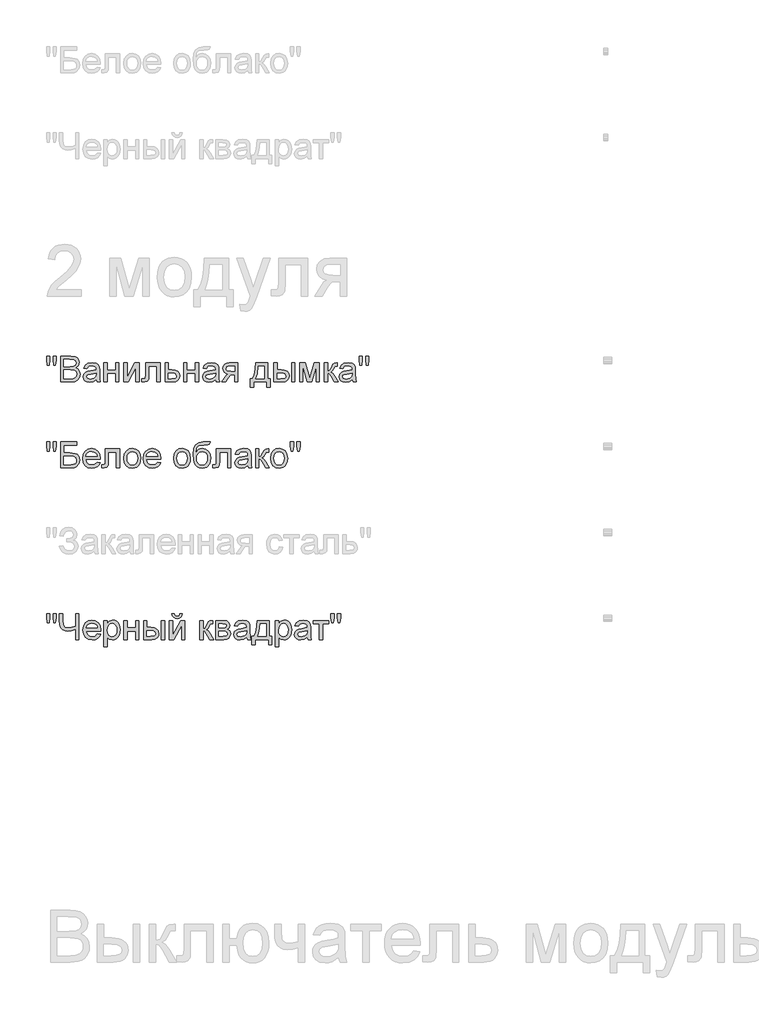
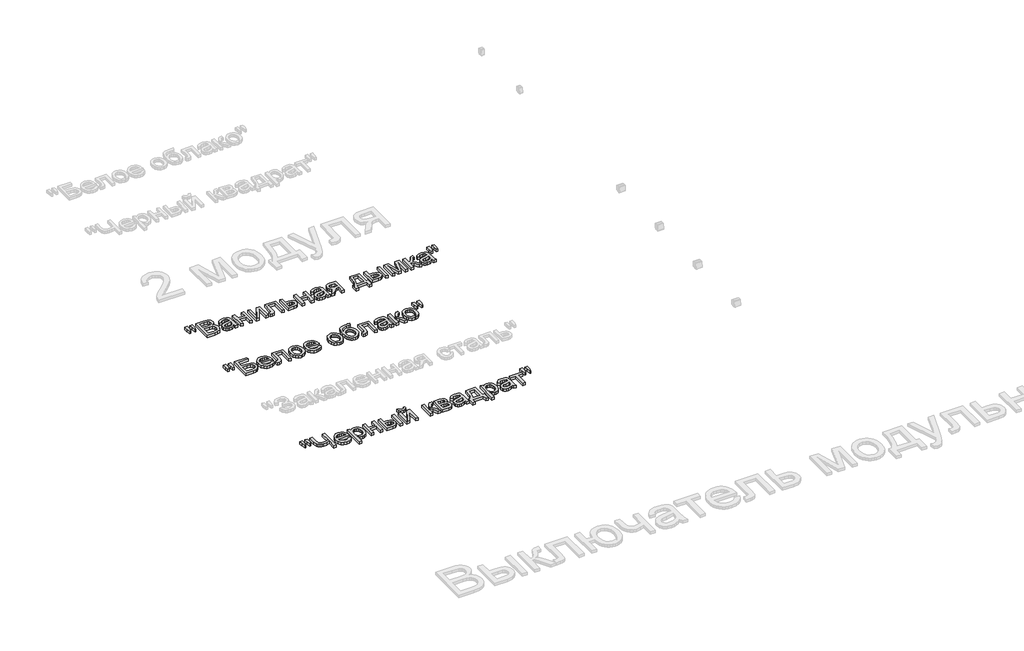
# One storey, part 40 of 168: 3 proxies.
"""IFC4 building model written with IfcOpenShell, lengths in millimetres."""

from ifc_helpers import new_model, si_unit, origin, origin_with_axes, place, context, project, spatial, polyline, outline, extrude, element, save

model = new_model("IFC4")

# Units and contexts
model_context = context("Model", 3, world=origin())
ifc_project = project(units=[si_unit("LENGTHUNIT", "METRE", prefix="MILLI")], contexts=[model_context])

# Site, building, storey
site = spatial("IfcSite", under=ifc_project)
building = spatial("IfcBuilding", under=site)
storey = spatial("IfcBuildingStorey", under=building, Name="Этаж 01", Elevation=0.0)

# Proxies
placement = place(None, origin())
element("IfcBuildingElementProxy", 1, Name="150", ObjectType="150", at=placement, inside=storey, context=model_context, shape_type="SweptSolid", body=[
    extrude(outline(polyline([(41980.1485789, -42186.1059817), (41975.550054, -42157.0065159), (41975.550054, -42131.9537521), (41994.3856121, -42131.9537521), (41994.3856121, -42157.0065159), (41990.2653338, -42186.1059817), (41980.1485789, -42186.1059817)])), origin_with_axes(), (0.0, 0.0, 1.0), 20.0),
    extrude(outline(polyline([(42017.7093306, -42186.1059817), (42013.2211703, -42157.0065159), (42013.2211703, -42131.9537521), (42032.0567284, -42131.9537521), (42032.0567284, -42157.0065159), (42027.6421445, -42186.1059817), (42017.7093306, -42186.1059817)])), origin_with_axes(), (0.0, 0.0, 1.0), 20.0),
    extrude(outline(polyline([(42057.9556209, -42282.6382173), (42057.9556209, -42131.9537521), (42115.4555767, -42131.9537521), (42143.6169435, -42136.3867301), (42153.0807078, -42142.0107261), (42160.2452096, -42150.016758), (42166.2600803, -42169.2937746), (42161.2017028, -42186.896928), (42145.9162059, -42200.2326504), (42156.5893823, -42205.8060626), (42164.4758526, -42214.2857426), (42169.3456905, -42225.1106703), (42170.9689698, -42237.7198257), (42166.5359918, -42257.9717295), (42155.5547142, -42272.3927037), (42139.1655713, -42280.0446492), (42115.0141183, -42282.6382173), (42057.9556209, -42282.6382173)]), holes=[polyline([(42076.791179, -42193.1693161), (42111.1881456, -42193.1693161), (42131.2745025, -42191.5506353), (42143.3594261, -42184.5792715), (42147.4245221, -42172.3104069), (42143.6353376, -42160.0231483), (42132.7828187, -42152.7574789), (42108.5761834, -42150.7893102), (42076.791179, -42150.7893102), (42076.791179, -42193.1693161)]), polyline([(42076.791179, -42263.8026591), (42115.4187885, -42263.8026591), (42129.3983043, -42263.0668951), (42141.2257105, -42258.9650109), (42149.061597, -42250.5956955), (42152.1334117, -42237.9037667), (42148.5281681, -42223.2620633), (42136.8479148, -42214.5248659), (42113.5793786, -42212.0048742), (42076.791179, -42212.0048742), (42076.791179, -42263.8026591)])]), origin_with_axes(), (0.0, 0.0, 1.0), 20.0),
    extrude(outline(polyline([(42265.1467606, -42268.5115487), (42246.8814195, -42281.2770539), (42226.7030921, -42284.992662), (42210.9623412, -42282.7577789), (42199.3510657, -42276.0531296), (42192.1911624, -42265.8719954), (42189.804528, -42253.2076577), (42193.4097715, -42238.3084369), (42202.8827329, -42227.4927062), (42216.0713024, -42221.3122887), (42232.3684748, -42218.4795973), (42265.036396, -42212.0048742), (42265.1467606, -42207.8110195), (42263.8499765, -42199.4049159), (42259.9596244, -42193.90508), (42251.2592153, -42189.8215899), (42239.1375035, -42188.4604265), (42220.0812162, -42192.0840642), (42210.9945309, -42204.9415399), (42192.1589727, -42202.5870951), (42200.3075589, -42184.1929954), (42216.7150959, -42173.4140529), (42241.5655247, -42169.6248684), (42264.3926025, -42172.9725945), (42277.2868664, -42181.3786981), (42283.0626137, -42194.1625974), (42283.9823187, -42210.6437108), (42283.9823187, -42234.0777939), (42284.9388119, -42266.8008974), (42288.6912083, -42282.6382173), (42269.8556501, -42282.6382173), (42265.1467606, -42268.5115487)]), holes=[polyline([(42265.1467606, -42230.8404324), (42234.7597078, -42236.6161797), (42218.5545059, -42239.6696002), (42211.2152601, -42244.6360072), (42208.6400861, -42251.8832825), (42214.2502865, -42262.0736138), (42230.7130058, -42266.1571039), (42249.7692932, -42261.6505495), (42262.0565518, -42250.7428483), (42265.036396, -42236.1747213), (42265.1467606, -42230.8404324)])]), origin_with_axes(), (0.0, 0.0, 1.0), 20.0),
    extrude(outline(polyline([(42309.8812112, -42171.9793131), (42328.7167693, -42171.9793131), (42328.7167693, -42214.359319), (42378.1601095, -42214.359319), (42378.1601095, -42171.9793131), (42396.9956676, -42171.9793131), (42396.9956676, -42282.6382173), (42378.1601095, -42282.6382173), (42378.1601095, -42233.1948771), (42328.7167693, -42233.1948771), (42328.7167693, -42282.6382173), (42309.8812112, -42282.6382173), (42309.8812112, -42171.9793131)])), origin_with_axes(), (0.0, 0.0, 1.0), 20.0),
    extrude(outline(polyline([(42425.2490049, -42171.9793131), (42444.084563, -42171.9793131), (42444.084563, -42256.3714428), (42490.364118, -42171.9793131), (42514.7179061, -42171.9793131), (42514.7179061, -42282.6382173), (42495.8823479, -42282.6382173), (42495.8823479, -42198.7611224), (42449.8970985, -42282.6382173), (42425.2490049, -42282.6382173), (42425.2490049, -42171.9793131)])), origin_with_axes(), (0.0, 0.0, 1.0), 20.0),
    extrude(outline(polyline([(42552.3890224, -42171.9793131), (42637.1490341, -42171.9793131), (42637.1490341, -42282.5278527), (42618.3134759, -42282.5278527), (42618.3134759, -42190.8148713), (42571.2245806, -42190.8148713), (42571.2245806, -42243.6059376), (42569.9553877, -42267.9597257), (42562.9840239, -42278.2420274), (42546.5029105, -42282.6382173), (42531.1990195, -42281.6817241), (42531.1990195, -42263.8026591), (42539.6235172, -42263.8026591), (42548.1399854, -42262.6438308), (42551.5428938, -42258.9650109), (42552.3890224, -42242.5390798), (42552.3890224, -42171.9793131)])), origin_with_axes(), (0.0, 0.0, 1.0), 20.0),
    extrude(outline(polyline([(42665.4023713, -42171.9793131), (42684.2379295, -42171.9793131), (42684.2379295, -42212.0048742), (42705.9429672, -42212.0048742), (42724.7601312, -42214.3639175), (42738.6844648, -42221.4410474), (42747.2929034, -42232.6660468), (42750.162383, -42247.4686985), (42747.7205663, -42260.9469751), (42740.395116, -42272.3191273), (42727.6985887, -42280.0584448), (42709.1435405, -42282.6382173), (42665.4023713, -42282.6382173), (42665.4023713, -42171.9793131)]), holes=[polyline([(42684.2379295, -42263.8026591), (42701.8226888, -42263.8026591), (42724.539402, -42259.8479277), (42729.6299692, -42254.7849517), (42731.3268249, -42247.5054867), (42726.3052356, -42235.9172039), (42718.2348244, -42232.1096252), (42704.066769, -42230.8404324), (42684.2379295, -42230.8404324), (42684.2379295, -42263.8026591)])]), origin_with_axes(), (0.0, 0.0, 1.0), 20.0),
    extrude(outline(polyline([(42773.7068307, -42171.9793131), (42792.5423889, -42171.9793131), (42792.5423889, -42214.359319), (42841.985729, -42214.359319), (42841.985729, -42171.9793131), (42860.8212872, -42171.9793131), (42860.8212872, -42282.6382173), (42841.985729, -42282.6382173), (42841.985729, -42233.1948771), (42792.5423889, -42233.1948771), (42792.5423889, -42282.6382173), (42773.7068307, -42282.6382173), (42773.7068307, -42171.9793131)])), origin_with_axes(), (0.0, 0.0, 1.0), 20.0),
    extrude(outline(polyline([(42959.7079675, -42268.5115487), (42941.4426264, -42281.2770539), (42921.264299, -42284.992662), (42905.5235481, -42282.7577789), (42893.9122726, -42276.0531296), (42886.7523693, -42265.8719954), (42884.3657349, -42253.2076577), (42887.9709784, -42238.3084369), (42897.4439398, -42227.4927062), (42910.6325093, -42221.3122887), (42926.9296817, -42218.4795973), (42959.5976029, -42212.0048742), (42959.7079675, -42207.8110195), (42958.4111834, -42199.4049159), (42954.5208313, -42193.90508), (42945.8204221, -42189.8215899), (42933.6987104, -42188.4604265), (42914.6424231, -42192.0840642), (42905.5557378, -42204.9415399), (42886.7201796, -42202.5870951), (42894.8687658, -42184.1929954), (42911.2763028, -42173.4140529), (42936.1267316, -42169.6248684), (42958.9538094, -42172.9725945), (42971.8480733, -42181.3786981), (42977.6238206, -42194.1625974), (42978.5435256, -42210.6437108), (42978.5435256, -42234.0777939), (42979.5000188, -42266.8008974), (42983.2524152, -42282.6382173), (42964.416857, -42282.6382173), (42959.7079675, -42268.5115487)]), holes=[polyline([(42959.7079675, -42230.8404324), (42929.3209147, -42236.6161797), (42913.1157128, -42239.6696002), (42905.776467, -42244.6360072), (42903.201293, -42251.8832825), (42908.8114934, -42262.0736138), (42925.2742127, -42266.1571039), (42944.3305001, -42261.6505495), (42956.6177587, -42250.7428483), (42959.5976029, -42236.1747213), (42959.7079675, -42230.8404324)])]), origin_with_axes(), (0.0, 0.0, 1.0), 20.0),
    extrude(outline(polyline([(43089.2024298, -42171.9793131), (43089.2024298, -42282.6382173), (43070.3668716, -42282.6382173), (43070.3668716, -42240.2582114), (43060.1029639, -42240.2582114), (43046.1234481, -42242.6494444), (43032.9900609, -42258.7258876), (43017.9804755, -42282.6382173), (42996.2018614, -42282.6382173), (43015.1109959, -42252.3983173), (43023.4619172, -42241.5457984), (43031.1506509, -42236.7265443), (43018.2747811, -42232.7810099), (43009.224884, -42225.2854142), (43003.872201, -42215.3158122), (43002.0879733, -42203.9482585), (43004.5251915, -42191.0539946), (43011.8368462, -42180.8452692), (43023.7654199, -42174.1958022), (43040.0533952, -42171.9793131), (43089.2024298, -42171.9793131)]), holes=[polyline([(43070.3668716, -42190.8148713), (43045.5348369, -42190.8148713), (43032.7095509, -42191.9047217), (43025.4300859, -42195.1742729), (43020.9235315, -42205.3829983), (43022.583599, -42212.5612957), (43027.5638015, -42217.5414982), (43051.0898551, -42221.4226533), (43070.3668716, -42221.4226533), (43070.3668716, -42190.8148713)])]), origin_with_axes(), (0.0, 0.0, 1.0), 20.0),
    extrude(outline(polyline([(43192.7979996, -42171.9793131), (43263.4313427, -42171.9793131), (43263.4313427, -42263.8026591), (43277.5580113, -42263.8026591), (43277.5580113, -42313.2459993), (43258.7224531, -42313.2459993), (43258.7224531, -42282.6382173), (43181.0257758, -42282.6382173), (43181.0257758, -42313.2459993), (43162.1902176, -42313.2459993), (43162.1902176, -42263.8026591), (43173.9624415, -42263.8026591), (43182.5202964, -42248.3378198), (43188.5121744, -42227.8789823), (43192.7979996, -42171.9793131)]), holes=[polyline([(43209.279113, -42190.8148713), (43204.864529, -42233.728306), (43195.1524444, -42263.8026591), (43244.5957845, -42263.8026591), (43244.5957845, -42190.8148713), (43209.279113, -42190.8148713)])]), origin_with_axes(), (0.0, 0.0, 1.0), 20.0),
    extrude(outline(polyline([(43402.3435841, -42171.9793131), (43421.1791422, -42171.9793131), (43421.1791422, -42282.6382173), (43402.3435841, -42282.6382173), (43402.3435841, -42171.9793131)])), origin_with_axes(), (0.0, 0.0, 1.0), 20.0),
    extrude(outline(polyline([(43298.7480142, -42171.9793131), (43317.5835724, -42171.9793131), (43317.5835724, -42212.0048742), (43340.8705027, -42212.0048742), (43360.9982463, -42214.3639175), (43375.9112627, -42221.4410474), (43385.1405023, -42232.6660468), (43388.2169154, -42247.4686985), (43385.637143, -42260.9469751), (43377.8978255, -42272.3191273), (43364.4931253, -42280.0584448), (43344.9172046, -42282.6382173), (43298.7480142, -42282.6382173), (43298.7480142, -42171.9793131)]), holes=[polyline([(43317.5835724, -42263.8026591), (43336.9341653, -42263.8026591), (43361.9133528, -42259.8479277), (43367.5143562, -42254.7849517), (43369.3813573, -42247.5054867), (43363.8447333, -42235.9172039), (43354.9649816, -42232.1096252), (43339.3989747, -42230.8404324), (43317.5835724, -42230.8404324), (43317.5835724, -42263.8026591)])]), origin_with_axes(), (0.0, 0.0, 1.0), 20.0),
    extrude(outline(polyline([(43449.4324794, -42171.9793131), (43481.8428832, -42171.9793131), (43506.8220707, -42260.5652976), (43533.7510327, -42171.9793131), (43564.8002731, -42171.9793131), (43564.8002731, -42282.6382173), (43545.964715, -42282.6382173), (43545.964715, -42193.537198), (43518.8886001, -42282.6382173), (43494.1669301, -42282.6382173), (43468.2680376, -42189.2697669), (43468.2680376, -42282.6382173), (43449.4324794, -42282.6382173), (43449.4324794, -42171.9793131)])), origin_with_axes(), (0.0, 0.0, 1.0), 20.0),
    extrude(outline(polyline([(43593.0536104, -42171.9793131), (43611.8891685, -42171.9793131), (43611.8891685, -42219.0682085), (43624.5075209, -42215.6836942), (43634.845005, -42195.9652192), (43643.4350496, -42178.9506769), (43651.0134187, -42173.4140529), (43664.7905994, -42171.9793131), (43668.395843, -42171.9793131), (43668.395843, -42190.9252359), (43663.3190714, -42190.8148713), (43654.1220216, -42192.8014341), (43647.6472984, -42205.1990573), (43640.0505352, -42218.608356), (43629.4003515, -42225.1750496), (43641.2829399, -42232.5050984), (43652.9447992, -42247.9469451), (43673.1047325, -42282.6382173), (43651.6940004, -42282.6382173), (43631.9387372, -42248.6827091), (43622.0059234, -42234.3169172), (43611.8891685, -42230.8404324), (43611.8891685, -42282.6382173), (43593.0536104, -42282.6382173), (43593.0536104, -42171.9793131)])), origin_with_axes(), (0.0, 0.0, 1.0), 20.0),
    extrude(outline(polyline([(43755.5102994, -42268.5115487), (43737.2449584, -42281.2770539), (43717.0666309, -42284.992662), (43701.3258801, -42282.7577789), (43689.7146046, -42276.0531296), (43682.5547013, -42265.8719954), (43680.1680668, -42253.2076577), (43683.7733104, -42238.3084369), (43693.2462717, -42227.4927062), (43706.4348413, -42221.3122887), (43722.7320137, -42218.4795973), (43755.3999348, -42212.0048742), (43755.5102994, -42207.8110195), (43754.2135154, -42199.4049159), (43750.3231633, -42193.90508), (43741.6227541, -42189.8215899), (43729.5010424, -42188.4604265), (43710.444755, -42192.0840642), (43701.3580697, -42204.9415399), (43682.5225116, -42202.5870951), (43690.6710978, -42184.1929954), (43707.0786348, -42173.4140529), (43731.9290635, -42169.6248684), (43754.7561413, -42172.9725945), (43767.6504053, -42181.3786981), (43773.4261526, -42194.1625974), (43774.3458576, -42210.6437108), (43774.3458576, -42234.0777939), (43775.3023508, -42266.8008974), (43779.0547471, -42282.6382173), (43760.219189, -42282.6382173), (43755.5102994, -42268.5115487)]), holes=[polyline([(43755.5102994, -42230.8404324), (43725.1232466, -42236.6161797), (43708.9180447, -42239.6696002), (43701.5787989, -42244.6360072), (43699.003625, -42251.8832825), (43704.6138254, -42262.0736138), (43721.0765447, -42266.1571039), (43740.132832, -42261.6505495), (43752.4200907, -42250.7428483), (43755.3999348, -42236.1747213), (43755.5102994, -42230.8404324)])]), origin_with_axes(), (0.0, 0.0, 1.0), 20.0),
    extrude(outline(polyline([(43800.1343854, -42186.1059817), (43795.5358605, -42157.0065159), (43795.5358605, -42131.9537521), (43814.3714187, -42131.9537521), (43814.3714187, -42157.0065159), (43810.2511403, -42186.1059817), (43800.1343854, -42186.1059817)])), origin_with_axes(), (0.0, 0.0, 1.0), 20.0),
    extrude(outline(polyline([(43837.6951372, -42186.1059817), (43833.2069768, -42157.0065159), (43833.2069768, -42131.9537521), (43852.042535, -42131.9537521), (43852.042535, -42157.0065159), (43847.627951, -42186.1059817), (43837.6951372, -42186.1059817)])), origin_with_axes(), (0.0, 0.0, 1.0), 20.0),
])
element("IfcBuildingElementProxy", 2, Name="150", ObjectType="150", at=placement, inside=storey, context=model_context, shape_type="SweptSolid", body=[
    extrude(outline(polyline([(41980.1485789, -42686.1059817), (41975.550054, -42657.0065159), (41975.550054, -42631.9537521), (41994.3856121, -42631.9537521), (41994.3856121, -42657.0065159), (41990.2653338, -42686.1059817), (41980.1485789, -42686.1059817)])), origin_with_axes(), (0.0, 0.0, 1.0), 20.0),
    extrude(outline(polyline([(42017.7093306, -42686.1059817), (42013.2211703, -42657.0065159), (42013.2211703, -42631.9537521), (42032.0567284, -42631.9537521), (42032.0567284, -42657.0065159), (42027.6421445, -42686.1059817), (42017.7093306, -42686.1059817)])), origin_with_axes(), (0.0, 0.0, 1.0), 20.0),
    extrude(outline(polyline([(42057.9556209, -42631.9537521), (42152.1334117, -42631.9537521), (42152.1334117, -42650.7893102), (42076.791179, -42650.7893102), (42076.791179, -42695.5237608), (42112.0710624, -42695.5237608), (42143.157091, -42699.3497336), (42153.5589544, -42704.8771606), (42161.6615553, -42713.807496), (42166.8762826, -42725.3038083), (42168.614525, -42738.5291661), (42163.6665122, -42759.9950805), (42148.8960501, -42776.310647), (42135.6247071, -42781.0563247), (42115.4555767, -42782.6382173), (42057.9556209, -42782.6382173), (42057.9556209, -42631.9537521)]), holes=[polyline([(42076.791179, -42763.8026591), (42117.1478339, -42763.8026591), (42131.4124583, -42762.2483577), (42141.6119866, -42757.5854534), (42147.7372218, -42749.8139463), (42149.7789669, -42738.9338363), (42145.1068655, -42724.1817682), (42132.102237, -42716.3090936), (42103.7201411, -42714.359319), (42076.791179, -42714.359319), (42076.791179, -42763.8026591)])]), origin_with_axes(), (0.0, 0.0, 1.0), 20.0),
    extrude(outline(polyline([(42269.6349209, -42749.6759905), (42288.1025971, -42752.0304353), (42281.4485315, -42765.9455717), (42270.8305374, -42776.3474352), (42256.4877381, -42782.8313553), (42238.6592569, -42784.992662), (42216.5587461, -42781.2632583), (42199.5534008, -42770.0750471), (42188.710079, -42752.1545955), (42185.0956384, -42728.2284702), (42188.7468672, -42703.4976031), (42199.7005536, -42685.0023358), (42216.4759726, -42673.4692352), (42237.5923991, -42669.6248684), (42258.0512366, -42673.4600382), (42274.3989927, -42684.9655476), (42285.1181544, -42703.4240267), (42288.6912083, -42728.1181056), (42288.5808437, -42733.1948771), (42203.9311966, -42733.1948771), (42207.1915508, -42747.2939546), (42214.7653213, -42757.6590298), (42225.6960151, -42764.0325854), (42239.0271389, -42766.1571039), (42257.4948151, -42762.2207665), (42269.6349209, -42749.6759905)]), holes=[polyline([(42203.9311966, -42714.359319), (42269.8556501, -42714.359319), (42267.3080673, -42704.408111), (42262.3140692, -42697.2895944), (42251.3327917, -42690.6677185), (42237.5188227, -42688.4604265), (42224.8222954, -42690.2216616), (42214.3238629, -42695.5053667), (42207.0260039, -42703.7413249), (42203.9311966, -42714.359319)])]), origin_with_axes(), (0.0, 0.0, 1.0), 20.0),
    extrude(outline(polyline([(42316.9445455, -42671.9793131), (42401.7045572, -42671.9793131), (42401.7045572, -42782.5278527), (42382.868999, -42782.5278527), (42382.868999, -42690.8148713), (42335.7801036, -42690.8148713), (42335.7801036, -42743.6059376), (42334.5109108, -42767.9597257), (42327.539547, -42778.2420274), (42311.0584336, -42782.6382173), (42295.7545426, -42781.6817241), (42295.7545426, -42763.8026591), (42304.1790403, -42763.8026591), (42312.6955084, -42762.6438308), (42316.0984169, -42758.9650109), (42316.9445455, -42742.5390798), (42316.9445455, -42671.9793131)])), origin_with_axes(), (0.0, 0.0, 1.0), 20.0),
    extrude(outline(polyline([(42425.2490049, -42727.3087652), (42429.323298, -42700.6281235), (42441.5461773, -42681.8753388), (42456.6477332, -42672.687486), (42474.7291332, -42669.6248684), (42494.516586, -42673.3542721), (42510.3217163, -42684.5424833), (42520.6821929, -42702.3065851), (42524.1356852, -42725.7636608), (42522.6089749, -42744.792357), (42518.0288441, -42759.2777106), (42510.5286499, -42770.1256309), (42500.2417496, -42778.2420274), (42488.0234688, -42783.3050034), (42474.7291332, -42784.992662), (42454.7025571, -42781.2770539), (42438.915821, -42770.1302294), (42428.6657089, -42751.9936471), (42425.2490049, -42727.3087652)]), holes=[polyline([(42444.084563, -42727.271977), (42446.2642638, -42744.318709), (42452.8033663, -42756.4634133), (42462.6442097, -42763.7336813), (42474.7291332, -42766.1571039), (42486.7588745, -42763.7198857), (42496.5813237, -42756.408231), (42503.1204262, -42744.1025783), (42505.300127, -42726.6833658), (42503.1066306, -42710.1332746), (42496.5261414, -42698.1541171), (42486.6898966, -42690.8838492), (42474.7291332, -42688.4604265), (42462.6442097, -42690.8746521), (42452.8033663, -42698.1173289), (42446.2642638, -42710.2344421), (42444.084563, -42727.271977)])]), origin_with_axes(), (0.0, 0.0, 1.0), 20.0),
    extrude(outline(polyline([(42622.8016363, -42749.6759905), (42641.2693124, -42752.0304353), (42634.6152469, -42765.9455717), (42623.9972528, -42776.3474352), (42609.6544535, -42782.8313553), (42591.8259723, -42784.992662), (42569.7254614, -42781.2632583), (42552.7201162, -42770.0750471), (42541.8767944, -42752.1545955), (42538.2623538, -42728.2284702), (42541.9135826, -42703.4976031), (42552.867269, -42685.0023358), (42569.642688, -42673.4692352), (42590.7591145, -42669.6248684), (42611.217952, -42673.4600382), (42627.5657081, -42684.9655476), (42638.2848698, -42703.4240267), (42641.8579236, -42728.1181056), (42641.747559, -42733.1948771), (42557.0979119, -42733.1948771), (42560.3582661, -42747.2939546), (42567.9320367, -42757.6590298), (42578.8627305, -42764.0325854), (42592.1938543, -42766.1571039), (42610.6615304, -42762.2207665), (42622.8016363, -42749.6759905)]), holes=[polyline([(42557.0979119, -42714.359319), (42623.0223655, -42714.359319), (42620.4747827, -42704.408111), (42615.4807846, -42697.2895944), (42604.499507, -42690.6677185), (42590.6855381, -42688.4604265), (42577.9890107, -42690.2216616), (42567.4905783, -42695.5053667), (42560.1927192, -42703.7413249), (42557.0979119, -42714.359319)])]), origin_with_axes(), (0.0, 0.0, 1.0), 20.0),
    extrude(outline(polyline([(42714.8457115, -42727.3087652), (42718.9200046, -42700.6281235), (42731.1428839, -42681.8753388), (42746.2444398, -42672.687486), (42764.3258398, -42669.6248684), (42784.1132926, -42673.3542721), (42799.9184229, -42684.5424833), (42810.2788995, -42702.3065851), (42813.7323918, -42725.7636608), (42812.2056815, -42744.792357), (42807.6255507, -42759.2777106), (42800.1253565, -42770.1256309), (42789.8384562, -42778.2420274), (42777.6201754, -42783.3050034), (42764.3258398, -42784.992662), (42744.2992637, -42781.2770539), (42728.5125276, -42770.1302294), (42718.2624155, -42751.9936471), (42714.8457115, -42727.3087652)]), holes=[polyline([(42733.6812696, -42727.271977), (42735.8609704, -42744.318709), (42742.4000729, -42756.4634133), (42752.2409163, -42763.7336813), (42764.3258398, -42766.1571039), (42776.3555811, -42763.7198857), (42786.1780303, -42756.408231), (42792.7171328, -42744.1025783), (42794.8968336, -42726.6833658), (42792.7033372, -42710.1332746), (42786.122848, -42698.1541171), (42776.2866032, -42690.8838492), (42764.3258398, -42688.4604265), (42752.2409163, -42690.8746521), (42742.4000729, -42698.1173289), (42735.8609704, -42710.2344421), (42733.6812696, -42727.271977)])]), origin_with_axes(), (0.0, 0.0, 1.0), 20.0),
    extrude(outline(polyline([(42912.6190721, -42629.5993073), (42929.1001855, -42629.5993073), (42924.2441431, -42644.296193), (42914.6424231, -42649.6120878), (42891.576222, -42650.7893102), (42860.5085875, -42655.1303178), (42853.3808738, -42660.7773064), (42848.5892108, -42669.0362572), (42844.560903, -42693.6475626), (42860.8764695, -42675.6213449), (42870.7954878, -42671.1239875), (42881.9009255, -42669.6248684), (42901.4998388, -42673.4370455), (42917.401538, -42684.8735771), (42927.9413572, -42702.8124229), (42931.4546302, -42726.1315428), (42929.7117893, -42744.1117753), (42924.4832664, -42758.5419466), (42907.9469707, -42778.0948746), (42896.6529935, -42783.2682152), (42881.9009255, -42784.992662), (42864.9001788, -42782.7715745), (42852.1576662, -42776.1083119), (42842.7812738, -42765.9823599), (42835.8788879, -42753.3732046), (42831.6298508, -42734.3858951), (42830.2135052, -42705.1254809), (42833.786559, -42668.9856734), (42844.5057207, -42646.9449434), (42862.6377045, -42635.7015499), (42888.449225, -42631.9537521), (42909.4184987, -42631.5306878), (42912.6190721, -42629.5993073)]), holes=[polyline([(42912.6190721, -42725.5429316), (42910.577327, -42710.7218857), (42904.4520918, -42698.8530929), (42894.6112484, -42691.0585931), (42881.4226789, -42688.4604265), (42867.6730893, -42691.2057459), (42857.473561, -42699.4417041), (42851.1551877, -42712.2669901), (42849.0490633, -42728.7802932), (42851.3759169, -42744.7877585), (42858.3564778, -42756.5369897), (42868.7491442, -42763.7520754), (42881.3123143, -42766.1571039), (42893.9398638, -42763.3749963), (42903.937057, -42755.0286735), (42910.4485683, -42742.0930229), (42912.6190721, -42725.5429316)])]), origin_with_axes(), (0.0, 0.0, 1.0), 20.0),
    extrude(outline(polyline([(42964.416857, -42671.9793131), (43049.1768687, -42671.9793131), (43049.1768687, -42782.5278527), (43030.3413105, -42782.5278527), (43030.3413105, -42690.8148713), (42983.2524152, -42690.8148713), (42983.2524152, -42743.6059376), (42981.9832223, -42767.9597257), (42975.0118585, -42778.2420274), (42958.5307451, -42782.6382173), (42943.2268541, -42781.6817241), (42943.2268541, -42763.8026591), (42951.6513518, -42763.8026591), (42960.16782, -42762.6438308), (42963.5707284, -42758.9650109), (42964.416857, -42742.5390798), (42964.416857, -42671.9793131)])), origin_with_axes(), (0.0, 0.0, 1.0), 20.0),
    extrude(outline(polyline([(43148.063549, -42768.5115487), (43129.7982079, -42781.2770539), (43109.6198805, -42784.992662), (43093.8791296, -42782.7577789), (43082.2678542, -42776.0531296), (43075.1079508, -42765.8719954), (43072.7213164, -42753.2076577), (43076.3265599, -42738.3084369), (43085.7995213, -42727.4927062), (43098.9880908, -42721.3122887), (43115.2852632, -42718.4795973), (43147.9531844, -42712.0048742), (43148.063549, -42707.8110195), (43146.766765, -42699.4049159), (43142.8764129, -42693.90508), (43134.1760037, -42689.8215899), (43122.0542919, -42688.4604265), (43102.9980046, -42692.0840642), (43093.9113193, -42704.9415399), (43075.0757612, -42702.5870951), (43083.2243473, -42684.1929954), (43099.6318843, -42673.4140529), (43124.4823131, -42669.6248684), (43147.3093909, -42672.9725945), (43160.2036548, -42681.3786981), (43165.9794022, -42694.1625974), (43166.8991071, -42710.6437108), (43166.8991071, -42734.0777939), (43167.8556003, -42766.8008974), (43171.6079967, -42782.6382173), (43152.7724385, -42782.6382173), (43148.063549, -42768.5115487)]), holes=[polyline([(43148.063549, -42730.8404324), (43117.6764962, -42736.6161797), (43101.4712943, -42739.6696002), (43094.1320485, -42744.6360072), (43091.5568745, -42751.8832825), (43097.167075, -42762.0736138), (43113.6297942, -42766.1571039), (43132.6860816, -42761.6505495), (43144.9733402, -42750.7428483), (43147.9531844, -42736.1747213), (43148.063549, -42730.8404324)])]), origin_with_axes(), (0.0, 0.0, 1.0), 20.0),
    extrude(outline(polyline([(43192.7979996, -42671.9793131), (43211.6335578, -42671.9793131), (43211.6335578, -42719.0682085), (43224.2519102, -42715.6836942), (43234.5893943, -42695.9652192), (43243.1794388, -42678.9506769), (43250.7578079, -42673.4140529), (43264.5349887, -42671.9793131), (43268.1402322, -42671.9793131), (43268.1402322, -42690.9252359), (43263.0634607, -42690.8148713), (43253.8664108, -42692.8014341), (43247.3916877, -42705.1990573), (43239.7949245, -42718.608356), (43229.1447407, -42725.1750496), (43241.0273292, -42732.5050984), (43252.6891884, -42747.9469451), (43272.8491218, -42782.6382173), (43251.4383896, -42782.6382173), (43231.6831265, -42748.6827091), (43221.7503126, -42734.3169172), (43211.6335578, -42730.8404324), (43211.6335578, -42782.6382173), (43192.7979996, -42782.6382173), (43192.7979996, -42671.9793131)])), origin_with_axes(), (0.0, 0.0, 1.0), 20.0),
    extrude(outline(polyline([(43279.9124561, -42727.3087652), (43283.9867492, -42700.6281235), (43296.2096285, -42681.8753388), (43311.3111844, -42672.687486), (43329.3925844, -42669.6248684), (43349.1800372, -42673.3542721), (43364.9851674, -42684.5424833), (43375.3456441, -42702.3065851), (43378.7991364, -42725.7636608), (43377.2724261, -42744.792357), (43372.6922952, -42759.2777106), (43365.1921011, -42770.1256309), (43354.9052008, -42778.2420274), (43342.68692, -42783.3050034), (43329.3925844, -42784.992662), (43309.3660083, -42781.2770539), (43293.5792722, -42770.1302294), (43283.3291601, -42751.9936471), (43279.9124561, -42727.3087652)]), holes=[polyline([(43298.7480142, -42727.271977), (43300.927715, -42744.318709), (43307.4668175, -42756.4634133), (43317.3076609, -42763.7336813), (43329.3925844, -42766.1571039), (43341.4223257, -42763.7198857), (43351.2447749, -42756.408231), (43357.7838774, -42744.1025783), (43359.9635782, -42726.6833658), (43357.7700818, -42710.1332746), (43351.1895926, -42698.1541171), (43341.3533478, -42690.8838492), (43329.3925844, -42688.4604265), (43317.3076609, -42690.8746521), (43307.4668175, -42698.1173289), (43300.927715, -42710.2344421), (43298.7480142, -42727.271977)])]), origin_with_axes(), (0.0, 0.0, 1.0), 20.0),
    extrude(outline(polyline([(43399.8787747, -42686.1059817), (43395.2802498, -42657.0065159), (43395.2802498, -42631.9537521), (43414.1158079, -42631.9537521), (43414.1158079, -42657.0065159), (43409.9955296, -42686.1059817), (43399.8787747, -42686.1059817)])), origin_with_axes(), (0.0, 0.0, 1.0), 20.0),
    extrude(outline(polyline([(43437.4395264, -42686.1059817), (43432.9513661, -42657.0065159), (43432.9513661, -42631.9537521), (43451.7869242, -42631.9537521), (43451.7869242, -42657.0065159), (43447.3723403, -42686.1059817), (43437.4395264, -42686.1059817)])), origin_with_axes(), (0.0, 0.0, 1.0), 20.0),
])
element("IfcBuildingElementProxy", 3, Name="150", ObjectType="150", at=placement, inside=storey, context=model_context, shape_type="SweptSolid", body=[
    extrude(outline(polyline([(41980.1485789, -43686.1059817), (41975.550054, -43657.0065159), (41975.550054, -43631.9537521), (41994.3856121, -43631.9537521), (41994.3856121, -43657.0065159), (41990.2653338, -43686.1059817), (41980.1485789, -43686.1059817)])), origin_with_axes(), (0.0, 0.0, 1.0), 20.0),
    extrude(outline(polyline([(42017.7093306, -43686.1059817), (42013.2211703, -43657.0065159), (42013.2211703, -43631.9537521), (42032.0567284, -43631.9537521), (42032.0567284, -43657.0065159), (42027.6421445, -43686.1059817), (42017.7093306, -43686.1059817)])), origin_with_axes(), (0.0, 0.0, 1.0), 20.0),
    extrude(outline(polyline([(42163.9056355, -43782.6382173), (42145.0700773, -43782.6382173), (42145.0700773, -43722.3055701), (42120.0908899, -43730.4725504), (42098.4226404, -43733.1948771), (42083.7395502, -43731.3324745), (42070.886673, -43725.7452667), (42060.926268, -43717.2931779), (42054.9205944, -43706.8361322), (42050.8922866, -43676.8353555), (42050.8922866, -43631.9537521), (42069.7278447, -43631.9537521), (42069.7278447, -43674.2969697), (42071.990319, -43694.6638367), (42078.7777418, -43706.615403), (42088.7381468, -43712.42334), (42100.5195677, -43714.359319), (42122.2521966, -43712.0232683), (42145.0700773, -43705.0151163), (42145.0700773, -43631.9537521), (42163.9056355, -43631.9537521), (42163.9056355, -43782.6382173)])), origin_with_axes(), (0.0, 0.0, 1.0), 20.0),
    extrude(outline(polyline([(42271.9893657, -43749.6759905), (42290.4570418, -43752.0304353), (42283.8029762, -43765.9455717), (42273.1849822, -43776.3474352), (42258.8421829, -43782.8313553), (42241.0137017, -43784.992662), (42218.9131908, -43781.2632583), (42201.9078456, -43770.0750471), (42191.0645238, -43752.1545955), (42187.4500832, -43728.2284702), (42191.101312, -43703.4976031), (42202.0549984, -43685.0023358), (42218.8304174, -43673.4692352), (42239.9468439, -43669.6248684), (42260.4056814, -43673.4600382), (42276.7534375, -43684.9655476), (42287.4725992, -43703.4240267), (42291.045653, -43728.1181056), (42290.9352884, -43733.1948771), (42206.2856413, -43733.1948771), (42209.5459955, -43747.2939546), (42217.1197661, -43757.6590298), (42228.0504599, -43764.0325854), (42241.3815837, -43766.1571039), (42259.8492598, -43762.2207665), (42271.9893657, -43749.6759905)]), holes=[polyline([(42206.2856413, -43714.359319), (42272.2100949, -43714.359319), (42269.6625121, -43704.408111), (42264.668514, -43697.2895944), (42253.6872364, -43690.6677185), (42239.8732675, -43688.4604265), (42227.1767401, -43690.2216616), (42216.6783077, -43695.5053667), (42209.3804486, -43703.7413249), (42206.2856413, -43714.359319)])]), origin_with_axes(), (0.0, 0.0, 1.0), 20.0),
    extrude(outline(polyline([(42309.8812112, -43825.0182231), (42309.8812112, -43671.9793131), (42328.7167693, -43671.9793131), (42328.7167693, -43690.4469893), (42341.739792, -43674.8303986), (42359.3245513, -43669.6248684), (42372.0624654, -43671.4458842), (42383.2000928, -43676.9089319), (42392.268384, -43685.6829175), (42398.7982894, -43697.4367472), (42404.0590019, -43726.4626366), (42402.5736784, -43742.5712695), (42398.1177077, -43756.9784481), (42390.8336442, -43768.9530071), (42380.8640422, -43777.7637808), (42369.2527667, -43783.1854417), (42357.043683, -43784.992662), (42340.6545401, -43780.1550138), (42328.7167693, -43767.9229375), (42328.7167693, -43825.0182231), (42309.8812112, -43825.0182231)]), holes=[polyline([(42328.7167693, -43728.191682), (42330.7539159, -43745.0774656), (42336.8653555, -43756.8864776), (42345.8830629, -43763.8394473), (42356.6390128, -43766.1571039), (42367.5697066, -43763.7566739), (42376.8173402, -43756.5553838), (42383.1219179, -43744.3141104), (42385.2234438, -43726.7937304), (42383.1725017, -43709.9999173), (42377.0196753, -43698.0253584), (42368.0157635, -43690.8516595), (42357.411565, -43688.4604265), (42346.7659797, -43691.0034108), (42337.4171785, -43698.6323637), (42330.8918716, -43711.1081618), (42328.7167693, -43728.191682)])]), origin_with_axes(), (0.0, 0.0, 1.0), 20.0),
    extrude(outline(polyline([(42425.2490049, -43671.9793131), (42444.084563, -43671.9793131), (42444.084563, -43714.359319), (42493.5279032, -43714.359319), (42493.5279032, -43671.9793131), (42512.3634613, -43671.9793131), (42512.3634613, -43782.6382173), (42493.5279032, -43782.6382173), (42493.5279032, -43733.1948771), (42444.084563, -43733.1948771), (42444.084563, -43782.6382173), (42425.2490049, -43782.6382173), (42425.2490049, -43671.9793131)])), origin_with_axes(), (0.0, 0.0, 1.0), 20.0),
    extrude(outline(polyline([(42644.2123684, -43671.9793131), (42663.0479266, -43671.9793131), (42663.0479266, -43782.6382173), (42644.2123684, -43782.6382173), (42644.2123684, -43671.9793131)])), origin_with_axes(), (0.0, 0.0, 1.0), 20.0),
    extrude(outline(polyline([(42540.6167986, -43671.9793131), (42559.4523567, -43671.9793131), (42559.4523567, -43712.0048742), (42582.739287, -43712.0048742), (42602.8670307, -43714.3639175), (42617.780047, -43721.4410474), (42627.0092866, -43732.6660468), (42630.0856998, -43747.4686985), (42627.5059273, -43760.9469751), (42619.7666098, -43772.3191273), (42606.3619096, -43780.0584448), (42586.785989, -43782.6382173), (42540.6167986, -43782.6382173), (42540.6167986, -43671.9793131)]), holes=[polyline([(42559.4523567, -43763.8026591), (42578.8029497, -43763.8026591), (42603.7821371, -43759.8479277), (42609.3831405, -43754.7849517), (42611.2501416, -43747.5054867), (42605.7135176, -43735.9172039), (42596.8337659, -43732.1096252), (42581.267759, -43730.8404324), (42559.4523567, -43730.8404324), (42559.4523567, -43763.8026591)])]), origin_with_axes(), (0.0, 0.0, 1.0), 20.0),
    extrude(outline(polyline([(42691.3012638, -43671.9793131), (42710.1368219, -43671.9793131), (42710.1368219, -43756.3714428), (42756.4163769, -43671.9793131), (42780.770165, -43671.9793131), (42780.770165, -43782.6382173), (42761.9346069, -43782.6382173), (42761.9346069, -43698.7611224), (42715.9493575, -43782.6382173), (42691.3012638, -43782.6382173), (42691.3012638, -43671.9793131)])), origin_with_axes(), (0.0, 0.0, 1.0), 20.0),
    extrude(outline(polyline([(42752.5168278, -43631.9537521), (42766.6434964, -43631.9537521), (42763.6038714, -43644.015683), (42757.5016288, -43652.9046317), (42748.6126801, -43658.3814749), (42737.2129368, -43660.2070893), (42724.8429047, -43658.3952705), (42715.2503817, -43652.959814), (42708.6928851, -43644.0846608), (42705.4279324, -43631.9537521), (42719.554601, -43631.9537521), (42724.8521017, -43642.5671476), (42735.5206796, -43646.0804207), (42747.219327, -43642.6775122), (42752.5168278, -43631.9537521)])), origin_with_axes(), (0.0, 0.0, 1.0), 20.0),
    extrude(outline(polyline([(42867.8846215, -43671.9793131), (42886.7201796, -43671.9793131), (42886.7201796, -43719.0682085), (42899.3385321, -43715.6836942), (42909.6760161, -43695.9652192), (42918.2660607, -43678.9506769), (42925.8444298, -43673.4140529), (42939.6216105, -43671.9793131), (42943.2268541, -43671.9793131), (42943.2268541, -43690.9252359), (42938.1500825, -43690.8148713), (42928.9530327, -43692.8014341), (42922.4783096, -43705.1990573), (42914.8815464, -43718.608356), (42904.2313626, -43725.1750496), (42916.113951, -43732.5050984), (42927.7758103, -43747.9469451), (42947.9357436, -43782.6382173), (42926.5250115, -43782.6382173), (42906.7697484, -43748.6827091), (42896.8369345, -43734.3169172), (42886.7201796, -43730.8404324), (42886.7201796, -43782.6382173), (42867.8846215, -43782.6382173), (42867.8846215, -43671.9793131)])), origin_with_axes(), (0.0, 0.0, 1.0), 20.0),
    extrude(outline(polyline([(42959.7079675, -43671.9793131), (43001.2050565, -43671.9793131), (43023.9585579, -43674.4993048), (43036.7608514, -43683.7331429), (43042.1135344, -43699.8279802), (43038.8761728, -43712.9061851), (43029.1273, -43722.2319937), (43041.7824406, -43732.440719), (43046.8224239, -43750.1910253), (43043.6310476, -43764.5476202), (43036.0434815, -43774.655178), (43024.0321343, -43780.6424575), (43007.569415, -43782.6382173), (42959.7079675, -43782.6382173), (42959.7079675, -43671.9793131)]), holes=[polyline([(42978.5435256, -43714.359319), (42997.1583546, -43714.359319), (43012.5174279, -43713.4028258), (43019.9854324, -43709.576853), (43023.2779762, -43702.6606715), (43021.8340394, -43697.0412741), (43017.5022289, -43693.4268335), (42997.7469658, -43690.8148713), (42978.5435256, -43690.8148713), (42978.5435256, -43714.359319)]), polyline([(42978.5435256, -43763.8026591), (43001.6465149, -43763.8026591), (43022.137542, -43760.3997507), (43026.377382, -43755.759839), (43027.9868658, -43748.6459209), (43024.7678983, -43739.5776297), (43016.3801888, -43734.2985231), (42999.8071049, -43733.1948771), (42978.5435256, -43733.1948771), (42978.5435256, -43763.8026591)])]), origin_with_axes(), (0.0, 0.0, 1.0), 20.0),
    extrude(outline(polyline([(43141.0002147, -43768.5115487), (43122.7348736, -43781.2770539), (43102.5565462, -43784.992662), (43086.8157953, -43782.7577789), (43075.2045198, -43776.0531296), (43068.0446165, -43765.8719954), (43065.6579821, -43753.2076577), (43069.2632256, -43738.3084369), (43078.736187, -43727.4927062), (43091.9247565, -43721.3122887), (43108.2219289, -43718.4795973), (43140.8898501, -43712.0048742), (43141.0002147, -43707.8110195), (43139.7034307, -43699.4049159), (43135.8130786, -43693.90508), (43127.1126694, -43689.8215899), (43114.9909576, -43688.4604265), (43095.9346703, -43692.0840642), (43086.847985, -43704.9415399), (43068.0124268, -43702.5870951), (43076.161013, -43684.1929954), (43092.56855, -43673.4140529), (43117.4189788, -43669.6248684), (43140.2460566, -43672.9725945), (43153.1403205, -43681.3786981), (43158.9160679, -43694.1625974), (43159.8357728, -43710.6437108), (43159.8357728, -43734.0777939), (43160.792266, -43766.8008974), (43164.5446624, -43782.6382173), (43145.7091042, -43782.6382173), (43141.0002147, -43768.5115487)]), holes=[polyline([(43141.0002147, -43730.8404324), (43110.6131619, -43736.6161797), (43094.40796, -43739.6696002), (43087.0687142, -43744.6360072), (43084.4935402, -43751.8832825), (43090.1037407, -43762.0736138), (43106.5664599, -43766.1571039), (43125.6227473, -43761.6505495), (43137.9100059, -43750.7428483), (43140.8898501, -43736.1747213), (43141.0002147, -43730.8404324)])]), origin_with_axes(), (0.0, 0.0, 1.0), 20.0),
    extrude(outline(polyline([(43202.2157787, -43671.9793131), (43272.8491218, -43671.9793131), (43272.8491218, -43763.8026591), (43286.9757904, -43763.8026591), (43286.9757904, -43813.2459993), (43268.1402322, -43813.2459993), (43268.1402322, -43782.6382173), (43190.4435548, -43782.6382173), (43190.4435548, -43813.2459993), (43171.6079967, -43813.2459993), (43171.6079967, -43763.8026591), (43183.3802205, -43763.8026591), (43191.9380754, -43748.3378198), (43197.9299534, -43727.8789823), (43202.2157787, -43671.9793131)]), holes=[polyline([(43218.6968921, -43690.8148713), (43214.2823081, -43733.728306), (43204.5702235, -43763.8026591), (43254.0135636, -43763.8026591), (43254.0135636, -43690.8148713), (43218.6968921, -43690.8148713)])]), origin_with_axes(), (0.0, 0.0, 1.0), 20.0),
    extrude(outline(polyline([(43308.1657933, -43825.0182231), (43308.1657933, -43671.9793131), (43327.0013514, -43671.9793131), (43327.0013514, -43690.4469893), (43340.0243741, -43674.8303986), (43357.6091334, -43669.6248684), (43370.3470475, -43671.4458842), (43381.4846749, -43676.9089319), (43390.5529661, -43685.6829175), (43397.0828715, -43697.4367472), (43402.3435841, -43726.4626366), (43400.8582605, -43742.5712695), (43396.4022898, -43756.9784481), (43389.1182263, -43768.9530071), (43379.1486243, -43777.7637808), (43367.5373488, -43783.1854417), (43355.3282651, -43784.992662), (43338.9391222, -43780.1550138), (43327.0013514, -43767.9229375), (43327.0013514, -43825.0182231), (43308.1657933, -43825.0182231)]), holes=[polyline([(43327.0013514, -43728.191682), (43329.038498, -43745.0774656), (43335.1499376, -43756.8864776), (43344.167645, -43763.8394473), (43354.9235949, -43766.1571039), (43365.8542887, -43763.7566739), (43375.1019223, -43756.5553838), (43381.4065, -43744.3141104), (43383.5080259, -43726.7937304), (43381.4570838, -43709.9999173), (43375.3042574, -43698.0253584), (43366.3003456, -43690.8516595), (43355.6961471, -43688.4604265), (43345.0505618, -43691.0034108), (43335.7017606, -43698.6323637), (43329.1764537, -43711.1081618), (43327.0013514, -43728.191682)])]), origin_with_axes(), (0.0, 0.0, 1.0), 20.0),
    extrude(outline(polyline([(43494.1669301, -43768.5115487), (43475.901589, -43781.2770539), (43455.7232616, -43784.992662), (43439.9825107, -43782.7577789), (43428.3712352, -43776.0531296), (43421.2113319, -43765.8719954), (43418.8246974, -43753.2076577), (43422.429941, -43738.3084369), (43431.9029024, -43727.4927062), (43445.0914719, -43721.3122887), (43461.3886443, -43718.4795973), (43494.0565655, -43712.0048742), (43494.1669301, -43707.8110195), (43492.870146, -43699.4049159), (43488.9797939, -43693.90508), (43480.2793847, -43689.8215899), (43468.157673, -43688.4604265), (43449.1013856, -43692.0840642), (43440.0147004, -43704.9415399), (43421.1791422, -43702.5870951), (43429.3277284, -43684.1929954), (43445.7352654, -43673.4140529), (43470.5856942, -43669.6248684), (43493.412772, -43672.9725945), (43506.3070359, -43681.3786981), (43512.0827832, -43694.1625974), (43513.0024882, -43710.6437108), (43513.0024882, -43734.0777939), (43513.9589814, -43766.8008974), (43517.7113777, -43782.6382173), (43498.8758196, -43782.6382173), (43494.1669301, -43768.5115487)]), holes=[polyline([(43494.1669301, -43730.8404324), (43463.7798773, -43736.6161797), (43447.5746754, -43739.6696002), (43440.2354296, -43744.6360072), (43437.6602556, -43751.8832825), (43443.270456, -43762.0736138), (43459.7331753, -43766.1571039), (43478.7894627, -43761.6505495), (43491.0767213, -43750.7428483), (43494.0565655, -43736.1747213), (43494.1669301, -43730.8404324)])]), origin_with_axes(), (0.0, 0.0, 1.0), 20.0),
    extrude(outline(polyline([(43529.4836016, -43671.9793131), (43618.9525028, -43671.9793131), (43618.9525028, -43690.8148713), (43583.6358313, -43690.8148713), (43583.6358313, -43782.6382173), (43564.8002731, -43782.6382173), (43564.8002731, -43690.8148713), (43529.4836016, -43690.8148713), (43529.4836016, -43671.9793131)])), origin_with_axes(), (0.0, 0.0, 1.0), 20.0),
    extrude(outline(polyline([(43635.3232516, -43686.1059817), (43630.7247267, -43657.0065159), (43630.7247267, -43631.9537521), (43649.5602848, -43631.9537521), (43649.5602848, -43657.0065159), (43645.4400065, -43686.1059817), (43635.3232516, -43686.1059817)])), origin_with_axes(), (0.0, 0.0, 1.0), 20.0),
    extrude(outline(polyline([(43672.8840033, -43686.1059817), (43668.395843, -43657.0065159), (43668.395843, -43631.9537521), (43687.2314011, -43631.9537521), (43687.2314011, -43657.0065159), (43682.8168172, -43686.1059817), (43672.8840033, -43686.1059817)])), origin_with_axes(), (0.0, 0.0, 1.0), 20.0),
])

save(model, "model.ifc")
